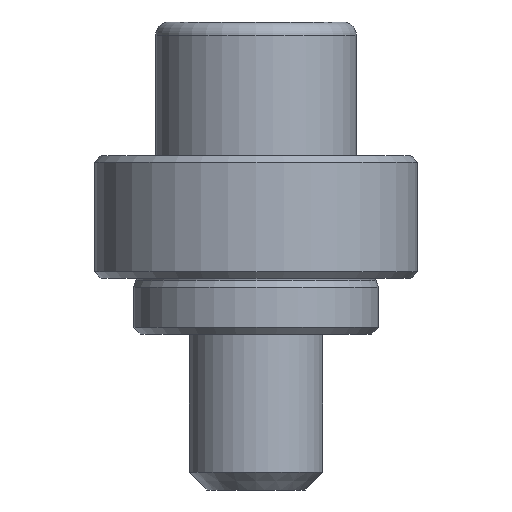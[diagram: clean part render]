
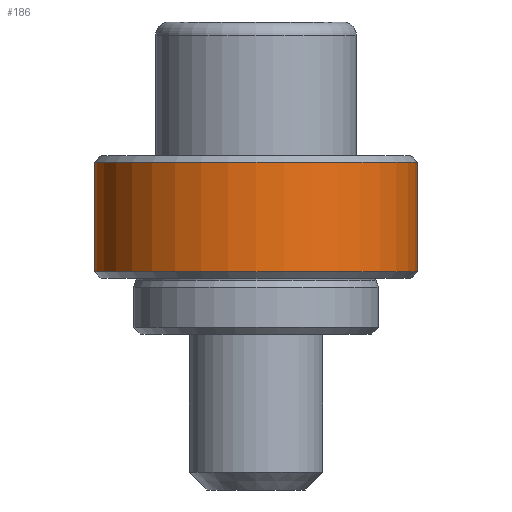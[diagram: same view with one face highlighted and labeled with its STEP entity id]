
A CAD part, left-side view. The second image highlights one B-rep face of the part: STEP entity #186.
In plain terms, the highlighted cylindrical face has radius 14.5 mm (diameter 29 mm), a full revolution.
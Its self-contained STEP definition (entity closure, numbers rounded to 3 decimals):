
#186=ADVANCED_FACE('',(#287,#289),#291,.T.);
#287=FACE_OUTER_BOUND('',#288,.T.);
#288=EDGE_LOOP('',(#469));
#289=FACE_OUTER_BOUND('',#290,.T.);
#290=EDGE_LOOP('',(#470));
#291=CYLINDRICAL_SURFACE('',#292,14.5);
#292=AXIS2_PLACEMENT_3D('',#293,#294,#295);
#293=CARTESIAN_POINT('',(0.,0.,16.));
#294=DIRECTION('',(0.,0.,1.));
#295=DIRECTION('',(1.,0.,0.));
#469=ORIENTED_EDGE('',*,*,#538,.F.);
#470=ORIENTED_EDGE('',*,*,#542,.T.);
#538=EDGE_CURVE('',#585,#585,#586,.T.);
#542=EDGE_CURVE('',#593,#593,#594,.T.);
#585=VERTEX_POINT('',#680);
#586=CIRCLE('',#681,14.5);
#593=VERTEX_POINT('',#700);
#594=CIRCLE('',#701,14.5);
#680=CARTESIAN_POINT('',(14.5,0.,15.4));
#681=AXIS2_PLACEMENT_3D('',#682,#683,#684);
#682=CARTESIAN_POINT('',(0.,0.,15.4));
#683=DIRECTION('',(0.,0.,1.));
#684=DIRECTION('',(1.,0.,0.));
#700=CARTESIAN_POINT('',(14.5,0.,5.6));
#701=AXIS2_PLACEMENT_3D('',#702,#703,#704);
#702=CARTESIAN_POINT('',(0.,0.,5.6));
#703=DIRECTION('',(0.,0.,1.));
#704=DIRECTION('',(1.,0.,0.));
